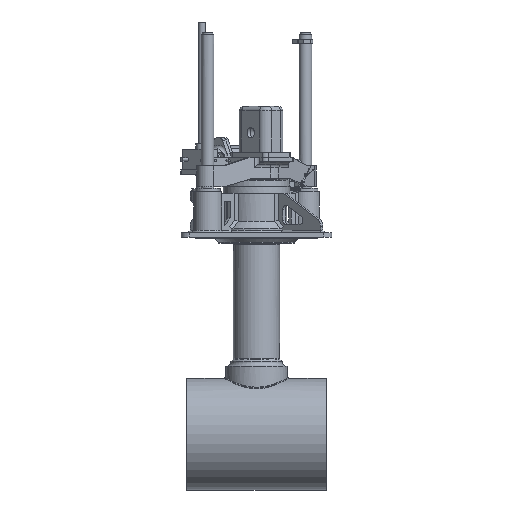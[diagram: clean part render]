
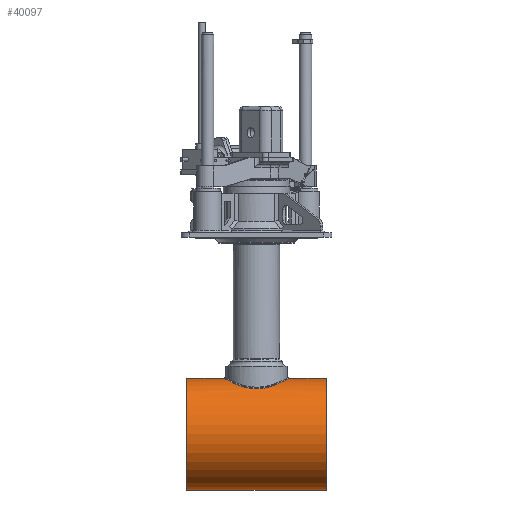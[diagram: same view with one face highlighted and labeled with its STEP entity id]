
A CAD part, left-side view. The second image highlights one B-rep face of the part: STEP entity #40097.
In plain terms, the highlighted cylindrical face has radius 133 mm (diameter 266 mm), a full revolution.
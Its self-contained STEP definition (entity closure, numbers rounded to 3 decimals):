
#880=B_SPLINE_CURVE_WITH_KNOTS('',3,(#79669,#79670,#79671,#79672,#79673,
#79674,#79675,#79676,#79677,#79678,#79679,#79680,#79681,#79682,#79683,#79684,
#79685,#79686),.UNSPECIFIED.,.F.,.F.,(4,2,2,2,2,2,2,2,4),(35.814,
37.302,38.79,40.279,41.767,43.263,
44.76,46.256,47.752),.UNSPECIFIED.);
#881=B_SPLINE_CURVE_WITH_KNOTS('',3,(#79688,#79689,#79690,#79691,#79692,
#79693,#79694,#79695,#79696,#79697,#79698,#79699,#79700,#79701,#79702,#79703,
#79704,#79705),.UNSPECIFIED.,.F.,.F.,(4,2,2,2,2,2,2,2,4),(23.876,
25.372,26.869,28.365,29.861,31.349,
32.838,34.326,35.814),.UNSPECIFIED.);
#882=B_SPLINE_CURVE_WITH_KNOTS('',3,(#79707,#79708,#79709,#79710,#79711,
#79712,#79713,#79714,#79715,#79716,#79717,#79718,#79719,#79720,#79721,#79722,
#79723,#79724),.UNSPECIFIED.,.F.,.F.,(4,2,2,2,2,2,2,2,4),(11.938,
13.426,14.914,16.403,17.891,19.387,
20.883,22.38,23.876),.UNSPECIFIED.);
#883=B_SPLINE_CURVE_WITH_KNOTS('',3,(#79725,#79726,#79727,#79728,#79729,
#79730,#79731,#79732,#79733,#79734,#79735,#79736,#79737,#79738,#79739,#79740,
#79741,#79742),.UNSPECIFIED.,.F.,.F.,(4,2,2,2,2,2,2,2,4),(0.,1.496,
2.993,4.489,5.985,7.473,8.962,
10.45,11.938),.UNSPECIFIED.);
#1298=FACE_BOUND('',#6666,.T.);
#4374=FACE_OUTER_BOUND('',#6665,.T.);
#6665=EDGE_LOOP('',(#34773,#34774,#34775,#34776));
#6666=EDGE_LOOP('',(#34777,#34778,#34779,#34780));
#9771=LINE('',#79855,#12836);
#12836=VECTOR('',#54330,133.);
#14590=CIRCLE('',#43875,133.);
#14591=CIRCLE('',#43876,133.);
#18201=VERTEX_POINT('',#79666);
#18202=VERTEX_POINT('',#79668);
#18203=VERTEX_POINT('',#79687);
#18204=VERTEX_POINT('',#79706);
#18218=VERTEX_POINT('',#79852);
#18219=VERTEX_POINT('',#79854);
#23756=EDGE_CURVE('',#18202,#18201,#880,.T.);
#23757=EDGE_CURVE('',#18203,#18202,#881,.T.);
#23758=EDGE_CURVE('',#18204,#18203,#882,.T.);
#23759=EDGE_CURVE('',#18201,#18204,#883,.T.);
#23775=EDGE_CURVE('',#18218,#18218,#14590,.T.);
#23776=EDGE_CURVE('',#18218,#18219,#9771,.T.);
#23777=EDGE_CURVE('',#18219,#18219,#14591,.T.);
#34773=ORIENTED_EDGE('',*,*,#23775,.T.);
#34774=ORIENTED_EDGE('',*,*,#23776,.T.);
#34775=ORIENTED_EDGE('',*,*,#23777,.T.);
#34776=ORIENTED_EDGE('',*,*,#23776,.F.);
#34777=ORIENTED_EDGE('',*,*,#23759,.T.);
#34778=ORIENTED_EDGE('',*,*,#23758,.T.);
#34779=ORIENTED_EDGE('',*,*,#23757,.T.);
#34780=ORIENTED_EDGE('',*,*,#23756,.T.);
#36018=CYLINDRICAL_SURFACE('',#43874,133.);
#40097=ADVANCED_FACE('',(#4374,#1298),#36018,.T.);
#43874=AXIS2_PLACEMENT_3D('',#79851,#54326,#54327);
#43875=AXIS2_PLACEMENT_3D('',#79853,#54328,#54329);
#43876=AXIS2_PLACEMENT_3D('',#79856,#54331,#54332);
#54326=DIRECTION('center_axis',(0.,1.,0.));
#54327=DIRECTION('ref_axis',(0.,0.,
1.));
#54328=DIRECTION('center_axis',(0.,-1.,0.));
#54329=DIRECTION('ref_axis',(0.,0.,
1.));
#54330=DIRECTION('',(0.,-1.,0.));
#54331=DIRECTION('center_axis',(0.,1.,0.));
#54332=DIRECTION('ref_axis',(0.,0.,
1.));
#79666=CARTESIAN_POINT('',(77.,0.,-359.256));
#79668=CARTESIAN_POINT('',(0.,77.,-334.7));
#79669=CARTESIAN_POINT('Ctrl Pts',(0.,77.,
-334.7));
#79670=CARTESIAN_POINT('Ctrl Pts',(4.961,77.,-334.7));
#79671=CARTESIAN_POINT('Ctrl Pts',(10.054,76.513,-334.984));
#79672=CARTESIAN_POINT('Ctrl Pts',(20.111,74.504,-336.132));
#79673=CARTESIAN_POINT('Ctrl Pts',(25.075,72.983,-336.995));
#79674=CARTESIAN_POINT('Ctrl Pts',(34.531,69.014,-339.169));
#79675=CARTESIAN_POINT('Ctrl Pts',(39.032,66.562,-340.481));
#79676=CARTESIAN_POINT('Ctrl Pts',(47.319,60.951,-343.325));
#79677=CARTESIAN_POINT('Ctrl Pts',(51.104,57.791,-344.855));
#79678=CARTESIAN_POINT('Ctrl Pts',(57.809,51.086,-347.864));
#79679=CARTESIAN_POINT('Ctrl Pts',(60.972,47.291,-349.456));
#79680=CARTESIAN_POINT('Ctrl Pts',(66.576,39.008,-352.518));
#79681=CARTESIAN_POINT('Ctrl Pts',(69.019,34.519,-353.986));
#79682=CARTESIAN_POINT('Ctrl Pts',(72.977,25.089,-356.485));
#79683=CARTESIAN_POINT('Ctrl Pts',(74.496,20.139,-357.515));
#79684=CARTESIAN_POINT('Ctrl Pts',(76.508,10.089,-358.902));
#79685=CARTESIAN_POINT('Ctrl Pts',(77.,4.988,-359.256));
#79686=CARTESIAN_POINT('Ctrl Pts',(77.,0.,
-359.256));
#79687=CARTESIAN_POINT('',(-77.,0.,-359.256));
#79688=CARTESIAN_POINT('Ctrl Pts',(-77.,0.,
-359.256));
#79689=CARTESIAN_POINT('Ctrl Pts',(-77.,4.988,-359.256));
#79690=CARTESIAN_POINT('Ctrl Pts',(-76.508,10.089,-358.902));
#79691=CARTESIAN_POINT('Ctrl Pts',(-74.496,20.139,-357.515));
#79692=CARTESIAN_POINT('Ctrl Pts',(-72.977,25.089,-356.485));
#79693=CARTESIAN_POINT('Ctrl Pts',(-69.019,34.519,-353.986));
#79694=CARTESIAN_POINT('Ctrl Pts',(-66.576,39.008,-352.518));
#79695=CARTESIAN_POINT('Ctrl Pts',(-60.972,47.291,-349.456));
#79696=CARTESIAN_POINT('Ctrl Pts',(-57.809,51.086,-347.864));
#79697=CARTESIAN_POINT('Ctrl Pts',(-51.104,57.791,-344.855));
#79698=CARTESIAN_POINT('Ctrl Pts',(-47.319,60.951,-343.325));
#79699=CARTESIAN_POINT('Ctrl Pts',(-39.032,66.562,-340.481));
#79700=CARTESIAN_POINT('Ctrl Pts',(-34.531,69.014,-339.169));
#79701=CARTESIAN_POINT('Ctrl Pts',(-25.075,72.983,-336.995));
#79702=CARTESIAN_POINT('Ctrl Pts',(-20.111,74.504,-336.132));
#79703=CARTESIAN_POINT('Ctrl Pts',(-10.054,76.513,-334.984));
#79704=CARTESIAN_POINT('Ctrl Pts',(-4.961,77.,-334.7));
#79705=CARTESIAN_POINT('Ctrl Pts',(0.,77.,
-334.7));
#79706=CARTESIAN_POINT('',(0.,-77.,-334.7));
#79707=CARTESIAN_POINT('Ctrl Pts',(0.,-77.,
-334.7));
#79708=CARTESIAN_POINT('Ctrl Pts',(-4.961,-77.,
-334.7));
#79709=CARTESIAN_POINT('Ctrl Pts',(-10.054,-76.513,
-334.984));
#79710=CARTESIAN_POINT('Ctrl Pts',(-20.111,-74.504,
-336.132));
#79711=CARTESIAN_POINT('Ctrl Pts',(-25.075,-72.983,
-336.995));
#79712=CARTESIAN_POINT('Ctrl Pts',(-34.531,-69.014,-339.169));
#79713=CARTESIAN_POINT('Ctrl Pts',(-39.032,-66.562,
-340.481));
#79714=CARTESIAN_POINT('Ctrl Pts',(-47.319,-60.951,
-343.325));
#79715=CARTESIAN_POINT('Ctrl Pts',(-51.104,-57.791,
-344.855));
#79716=CARTESIAN_POINT('Ctrl Pts',(-57.809,-51.086,
-347.864));
#79717=CARTESIAN_POINT('Ctrl Pts',(-60.972,-47.291,-349.456));
#79718=CARTESIAN_POINT('Ctrl Pts',(-66.576,-39.008,
-352.518));
#79719=CARTESIAN_POINT('Ctrl Pts',(-69.019,-34.519,
-353.986));
#79720=CARTESIAN_POINT('Ctrl Pts',(-72.977,-25.089,
-356.485));
#79721=CARTESIAN_POINT('Ctrl Pts',(-74.496,-20.139,
-357.515));
#79722=CARTESIAN_POINT('Ctrl Pts',(-76.508,-10.089,
-358.902));
#79723=CARTESIAN_POINT('Ctrl Pts',(-77.,-4.988,-359.256));
#79724=CARTESIAN_POINT('Ctrl Pts',(-77.,0.,
-359.256));
#79725=CARTESIAN_POINT('Ctrl Pts',(77.,0.,
-359.256));
#79726=CARTESIAN_POINT('Ctrl Pts',(77.,-4.988,-359.256));
#79727=CARTESIAN_POINT('Ctrl Pts',(76.508,-10.089,-358.902));
#79728=CARTESIAN_POINT('Ctrl Pts',(74.496,-20.139,-357.515));
#79729=CARTESIAN_POINT('Ctrl Pts',(72.977,-25.089,-356.485));
#79730=CARTESIAN_POINT('Ctrl Pts',(69.019,-34.519,-353.986));
#79731=CARTESIAN_POINT('Ctrl Pts',(66.576,-39.008,-352.518));
#79732=CARTESIAN_POINT('Ctrl Pts',(60.972,-47.291,-349.456));
#79733=CARTESIAN_POINT('Ctrl Pts',(57.809,-51.086,-347.864));
#79734=CARTESIAN_POINT('Ctrl Pts',(51.104,-57.791,-344.855));
#79735=CARTESIAN_POINT('Ctrl Pts',(47.319,-60.951,-343.325));
#79736=CARTESIAN_POINT('Ctrl Pts',(39.032,-66.562,-340.481));
#79737=CARTESIAN_POINT('Ctrl Pts',(34.531,-69.014,-339.169));
#79738=CARTESIAN_POINT('Ctrl Pts',(25.075,-72.983,-336.995));
#79739=CARTESIAN_POINT('Ctrl Pts',(20.111,-74.504,-336.132));
#79740=CARTESIAN_POINT('Ctrl Pts',(10.054,-76.513,-334.984));
#79741=CARTESIAN_POINT('Ctrl Pts',(4.961,-77.,-334.7));
#79742=CARTESIAN_POINT('Ctrl Pts',(0.,-77.,
-334.7));
#79851=CARTESIAN_POINT('Origin',(0.,0.,
-467.7));
#79852=CARTESIAN_POINT('',(0.,166.3,-600.7));
#79853=CARTESIAN_POINT('Origin',(0.,166.3,
-467.7));
#79854=CARTESIAN_POINT('',(0.,-166.3,-600.7));
#79855=CARTESIAN_POINT('',(0.,0.,-600.7));
#79856=CARTESIAN_POINT('Origin',(0.,-166.3,
-467.7));
